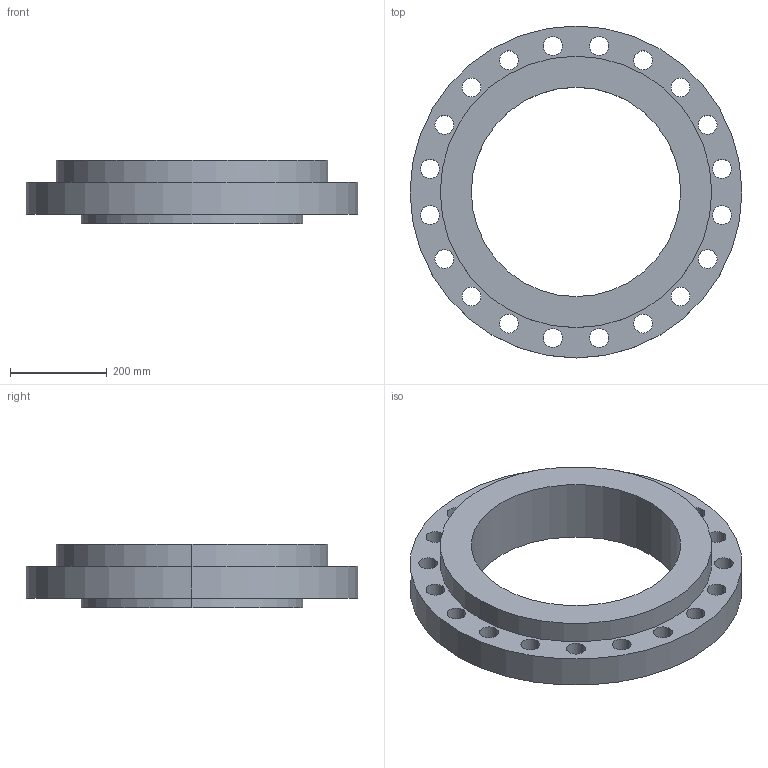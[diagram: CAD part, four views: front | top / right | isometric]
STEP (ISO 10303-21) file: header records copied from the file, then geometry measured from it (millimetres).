
FILE_DESCRIPTION (( 'STEP AP214' ), '1' );
FILE_NAME ('PN40 DN450 Type 04 in 34 - (Type A Face).STEP', '2018-12-29T02:49:03', ( '' ), ( '' ), 'SwSTEP 2.0', 'SolidWorks 2019', '' );
FILE_SCHEMA (( 'AUTOMOTIVE_DESIGN' ));
Length unit declared in the file: millimetre
Products named in the file (1): PN40 DN450 Type 04 in 34 - (Type A Face)
Bounding box: 685 x 685 x 132 mm (x, y, z)
Volume: 15756072 mm3; surface area: 1245574 mm2
Topology: 2 solids, 2 shells, 61 faces, 162 edges, 106 vertices
Faces by surface type: cylinder 50, cone 6, plane 5
Entity records: 2085 total; most frequent: DIRECTION 392, CARTESIAN_POINT 330, ORIENTED_EDGE 324, AXIS2_PLACEMENT_3D 168, EDGE_CURVE 162, CIRCLE 106, EDGE_LOOP 106, VERTEX_POINT 106
